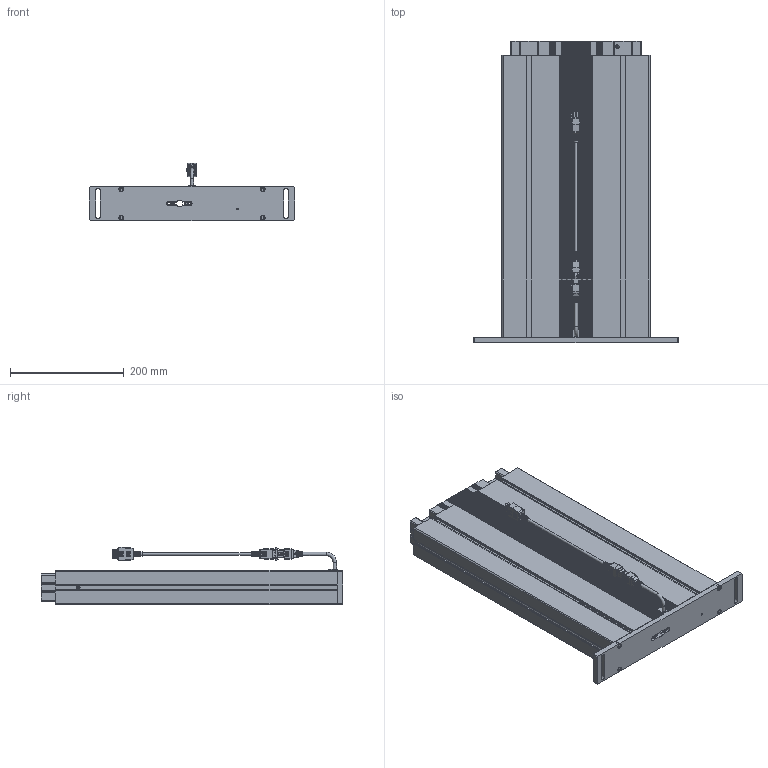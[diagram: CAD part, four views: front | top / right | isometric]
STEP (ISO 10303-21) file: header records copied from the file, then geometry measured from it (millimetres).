
FILE_DESCRIPTION(/* description */ ('Unknown'),/* implementation_level */ '2;1');
FILE_NAME(/* name */ '901.01103_01-Eingefahren',/* time_stamp */ '2022-06-27T11:01:44+02:00',/* author */ ('Unknown'),/* organization */ ('Unknown'),/* preprocessor_version */ 'ST-DEVELOPER v18.1',/* originating_system */ 'Solid Edge',/* authorisation */ 'Unknown');
FILE_SCHEMA (('AUTOMOTIVE_DESIGN {1 0 10303 214 3 1 1}'));
Products named in the file (12): 901.01103; 126.00137; 119.00305; 119.00404; 142.00166; 124.00201_oa_0; 142.00241; 110.00113_oa_1; 115.00200_oa_2; 124.00151; Kabel Motor Sx; 142.00341
Assembly tree (16 placements, depth 2):
  901.01103
    126.00137
    119.00305
    119.00404
    142.00166  x4
    124.00201_oa_0
    142.00241  x2
    110.00113_oa_1
    115.00200_oa_2
    124.00151
    Kabel Motor Sx
    142.00341  x2
Bounding box: 360 x 530 x 100.67 mm (x, y, z)
Volume: 2590559.6 mm3; surface area: 1571761.1 mm2
Topology: 13 solids, 13 shells, 3227 faces, 9137 edges, 6050 vertices
Faces by surface type: plane 1895, cylinder 1139, torus 103, bspline 72, cone 12, sphere 6
Full cylindrical faces by diameter (mm): 1.5 x6, 1.82 x6, 2.459 x1, 2.7 x6, 3.242 x4, 3.4 x1, 4 x4, 5 x5, 5.5 x4, 6 x3, 7 x4, 8.5 x4, 8.7 x4, 30 x2
Entity records: 127792 total; most frequent: CARTESIAN_POINT 22243, ORIENTED_EDGE 17786, DIRECTION 17228, EDGE_CURVE 8893, VERTEX_POINT 5931, LINE 5866, VECTOR 5866, AXIS2_PLACEMENT_3D 5681
